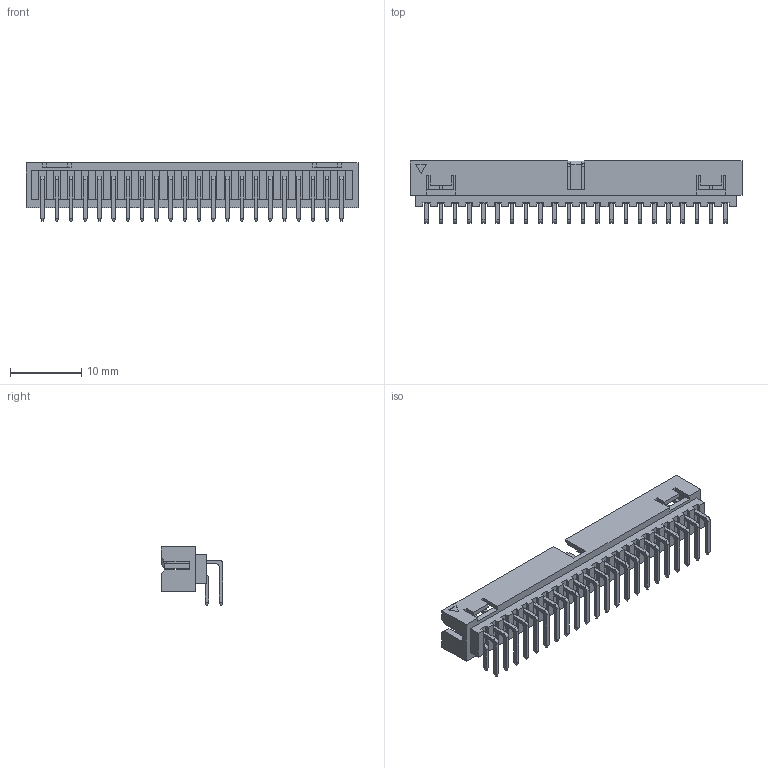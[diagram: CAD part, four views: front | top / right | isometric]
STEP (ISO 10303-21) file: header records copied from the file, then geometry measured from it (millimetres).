
FILE_DESCRIPTION (( 'STEP AP214' ), '1' );
FILE_NAME ('3112-2X22G00RBA.STEP', '2019-11-13T09:50:45', ( '' ), ( '' ), 'SwSTEP 2.0', 'SolidWorks 2011', '' );
FILE_SCHEMA (( 'AUTOMOTIVE_DESIGN' ));
Length unit declared in the file: millimetre
Products named in the file (1): 3112-2X22G00RBA
Bounding box: 46.65 x 8.7 x 8.2 mm (x, y, z)
Volume: 835.3 mm3; surface area: 2579.9 mm2
Topology: 2 solids, 2 shells, 1249 faces, 3068 edges, 1908 vertices
Faces by surface type: plane 1161, cylinder 88
Entity records: 35693 total; most frequent: CARTESIAN_POINT 6226, ORIENTED_EDGE 6136, DIRECTION 5744, EDGE_CURVE 3068, LINE 2892, VECTOR 2892, VERTEX_POINT 1908, AXIS2_PLACEMENT_3D 1426
